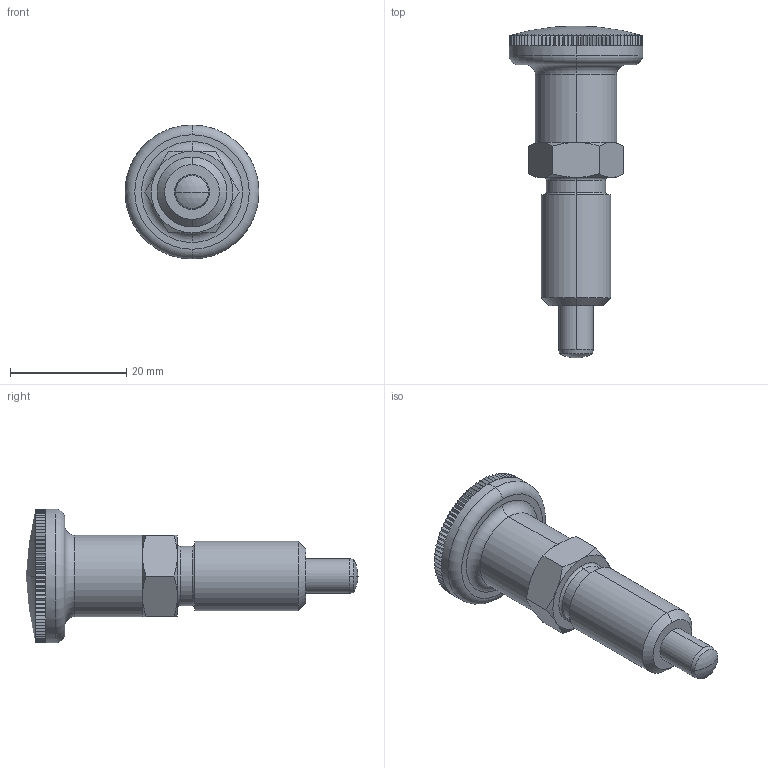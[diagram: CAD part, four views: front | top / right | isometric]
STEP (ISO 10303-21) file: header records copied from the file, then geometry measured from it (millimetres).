
FILE_DESCRIPTION (( 'STEP AP203' ), '1' );
FILE_NAME ('32690.W0130.step', '2011-03-25T12:21:59', ( 'Wixroyd' ), ( 'Wixroyd' ), 'SwSTEP 2.0', 'SolidWorks 2009', '' );
FILE_SCHEMA (( 'CONFIG_CONTROL_DESIGN' ));
Length unit declared in the file: millimetre
Products named in the file (4): Part1_3269.W130; Part2_3269.W130; Part3_3269.W130; 32690.W0130
Assembly tree (3 placements, depth 2):
  32690.W0130
    Part2_3269.W130
    Part1_3269.W130
    Part3_3269.W130
Bounding box: 23 x 57 x 23 mm (x, y, z)
Volume: 7824.1 mm3; surface area: 5629.6 mm2
Topology: 3 solids, 3 shells, 354 faces, 814 edges, 472 vertices
Faces by surface type: plane 305, cylinder 21, cone 16, torus 8, sphere 4
Entity records: 10376 total; most frequent: DIRECTION 1870, CARTESIAN_POINT 1790, ORIENTED_EDGE 1628, EDGE_CURVE 814, AXIS2_PLACEMENT_3D 720, VERTEX_POINT 472, VECTOR 430, LINE 430
